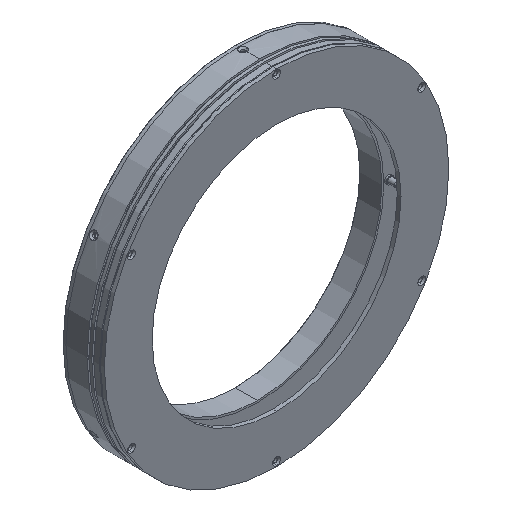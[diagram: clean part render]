
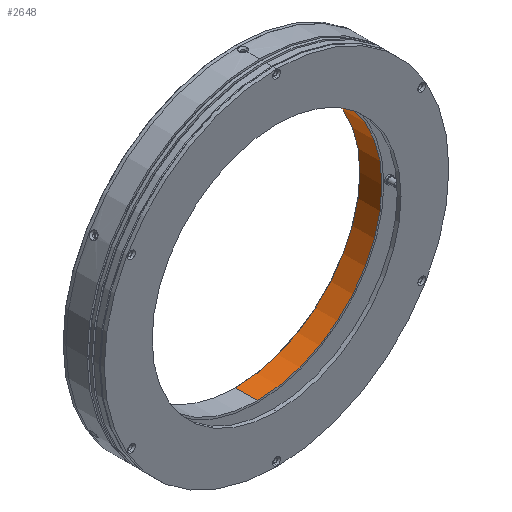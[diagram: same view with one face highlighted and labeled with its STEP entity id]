
A CAD part, isometric view. The second image highlights one B-rep face of the part: STEP entity #2648.
In plain terms, the highlighted cylindrical face has radius 65 mm (diameter 130 mm), a partial arc.
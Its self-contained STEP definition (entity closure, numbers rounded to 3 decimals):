
#314 = AXIS2_PLACEMENT_3D ( 'NONE', #4179, #917, #4565 ) ;
#511 = CYLINDRICAL_SURFACE ( 'NONE', #314, 65. ) ;
#562 = FACE_OUTER_BOUND ( 'NONE', #2865, .T. ) ;
#572 = ORIENTED_EDGE ( 'NONE', *, *, #1177, .T. ) ;
#619 = AXIS2_PLACEMENT_3D ( 'NONE', #2012, #3463, #1299 ) ;
#783 = VECTOR ( 'NONE', #4305, 1000. ) ;
#868 = VERTEX_POINT ( 'NONE', #4367 ) ;
#897 = CIRCLE ( 'NONE', #3402, 65. ) ;
#917 = DIRECTION ( 'NONE',  ( 0., -1., 0. ) ) ;
#968 = LINE ( 'NONE', #2235, #3764 ) ;
#1077 = CARTESIAN_POINT ( 'NONE',  ( -10.815, -5.766, 180. ) ) ;
#1120 = ORIENTED_EDGE ( 'NONE', *, *, #3348, .F. ) ;
#1177 = EDGE_CURVE ( 'NONE', #4369, #2807, #4058, .T. ) ;
#1278 = ORIENTED_EDGE ( 'NONE', *, *, #1853, .T. ) ;
#1299 = DIRECTION ( 'NONE',  ( 0., 0., -1. ) ) ;
#1504 = VERTEX_POINT ( 'NONE', #2394 ) ;
#1699 = CARTESIAN_POINT ( 'NONE',  ( -10.815, -17.266, 245. ) ) ;
#1853 = EDGE_CURVE ( 'NONE', #868, #4369, #968, .T. ) ;
#2012 = CARTESIAN_POINT ( 'NONE',  ( -10.815, -17.266, 180. ) ) ;
#2235 = CARTESIAN_POINT ( 'NONE',  ( -10.815, -30.565, 115. ) ) ;
#2394 = CARTESIAN_POINT ( 'NONE',  ( -10.815, -5.766, 245. ) ) ;
#2619 = DIRECTION ( 'NONE',  ( 0., -1., 0. ) ) ;
#2648 = ADVANCED_FACE ( 'NONE', ( #562 ), #511, .F. ) ;
#2807 = VERTEX_POINT ( 'NONE', #1699 ) ;
#2865 = EDGE_LOOP ( 'NONE', ( #1120, #4304, #1278, #572 ) ) ;
#3198 = CARTESIAN_POINT ( 'NONE',  ( -10.815, -30.565, 245. ) ) ;
#3225 = EDGE_CURVE ( 'NONE', #868, #1504, #897, .T. ) ;
#3348 = EDGE_CURVE ( 'NONE', #1504, #2807, #3570, .T. ) ;
#3402 = AXIS2_PLACEMENT_3D ( 'NONE', #1077, #3620, #4731 ) ;
#3463 = DIRECTION ( 'NONE',  ( 0., -1., 0. ) ) ;
#3570 = LINE ( 'NONE', #3198, #783 ) ;
#3620 = DIRECTION ( 'NONE',  ( 0., -1., 0. ) ) ;
#3764 = VECTOR ( 'NONE', #2619, 1000. ) ;
#3970 = CARTESIAN_POINT ( 'NONE',  ( -10.815, -17.266, 115. ) ) ;
#4058 = CIRCLE ( 'NONE', #619, 65. ) ;
#4179 = CARTESIAN_POINT ( 'NONE',  ( -10.815, -30.565, 180. ) ) ;
#4304 = ORIENTED_EDGE ( 'NONE', *, *, #3225, .F. ) ;
#4305 = DIRECTION ( 'NONE',  ( 0., -1., 0. ) ) ;
#4367 = CARTESIAN_POINT ( 'NONE',  ( -10.815, -5.766, 115. ) ) ;
#4369 = VERTEX_POINT ( 'NONE', #3970 ) ;
#4565 = DIRECTION ( 'NONE',  ( 0., 0., -1. ) ) ;
#4731 = DIRECTION ( 'NONE',  ( 0., 0., -1. ) ) ;
